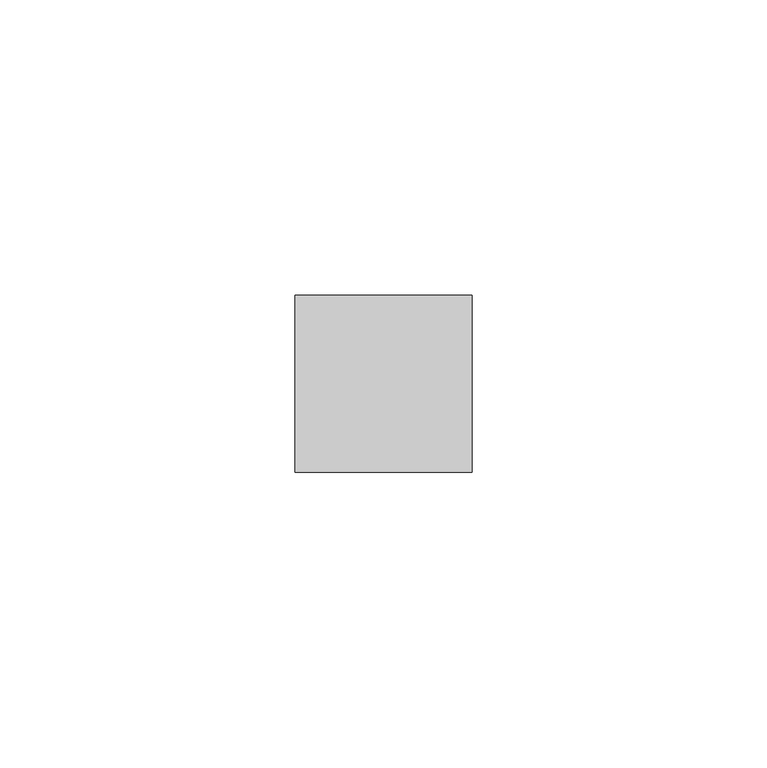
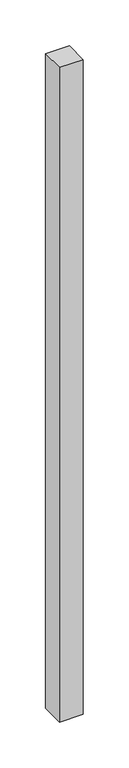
"""IFC4 building model written with IfcOpenShell, lengths in millimetres: member geometry, 矩形竖梃 : 30mm 正方形."""

from ifc_helpers import new_model, si_unit, frame, origin, place, context, project, spatial, polyline, outline, extrude, source, transform, mapped, element, save


def member_5fb01ee3(model_context):
    return source(origin(), model_context, "Body", "SweptSolid", [
        extrude(outline(polyline([(0.0, 15.0), (0.0, -15.0), (-30.0, -15.0), (-30.0, 15.0), (0.0, 15.0)])), frame((0.0, 0.0, -871.6666667), z_axis=(0.0, 0.0, 1.0), x_axis=(1.0, 0.0, 0.0)), (0.0, 0.0, 1.0), 871.6666667),
    ])


if __name__ == "__main__":
    model = new_model("IFC4")
    model_context = context("Model", 3, world=origin())
    ifc_project = project(units=[si_unit("LENGTHUNIT", "METRE", prefix="MILLI")], contexts=[model_context])
    site = spatial("IfcSite", under=ifc_project)
    building = spatial("IfcBuilding", under=site)
    placement = place(None, origin())
    member_shape = member_5fb01ee3(model_context)
    element("IfcMember", 1, ObjectType="矩形竖梃 : 30mm 正方形", at=placement, inside=building, context=model_context, shape_type="MappedRepresentation", body=[
        mapped(member_shape, transform((0.0, 0.0, 0.0), x_axis=(1.0, 0.0, 0.0), y_axis=(0.0, 1.0, 0.0), z_axis=(0.0, 0.0, 1.0))),
    ])
    save(model, "model.ifc")
